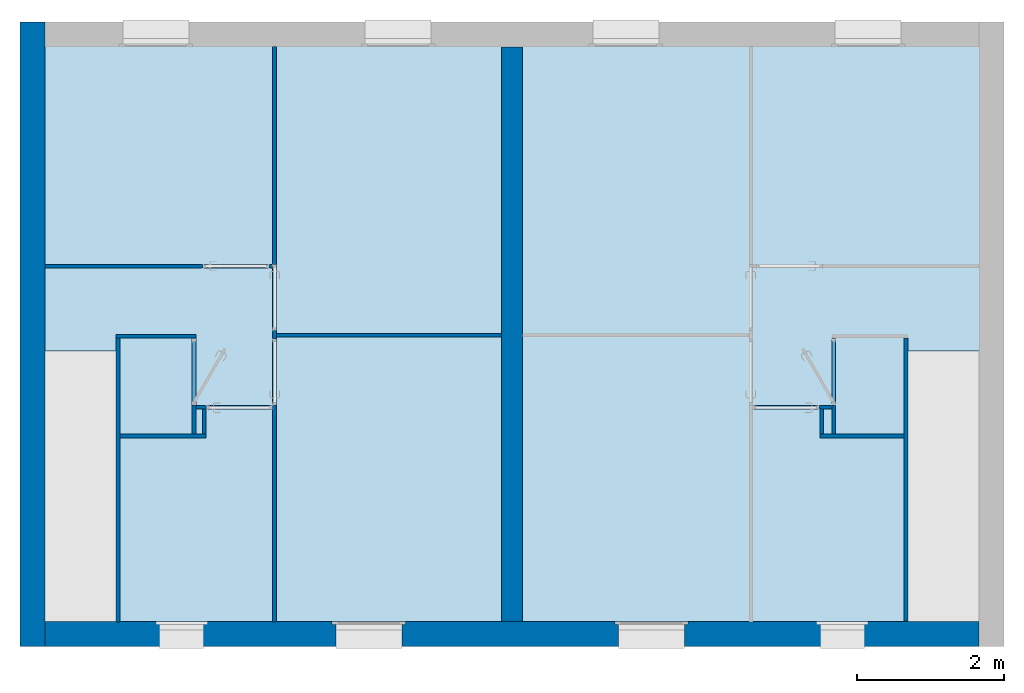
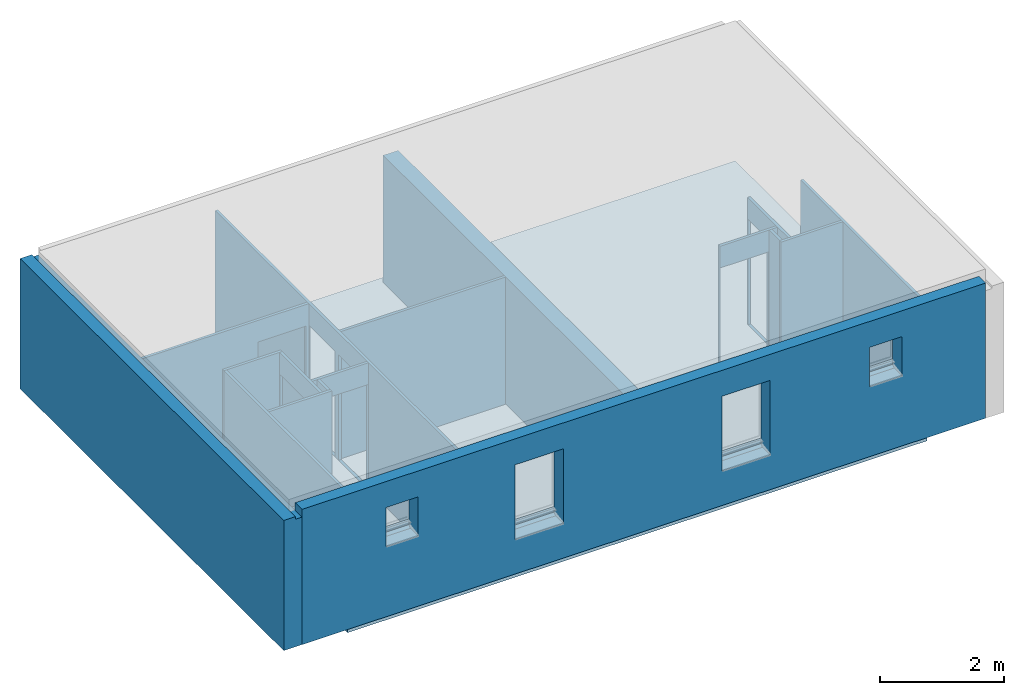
# One storey, part 1 of 14: 17 walls, 1 slab.
"""IFC2X3 building model written with IfcOpenShell, lengths in millimetres."""

import ifcopenshell
import ifcopenshell.guid

model = None  # the IFC model being written
_history = None  # IfcOwnerHistory: only IFC2X3 demands one
_inside = {}  # id of a spatial element -> (the spatial element, [elements in it])
_under = {}  # id of a project, library or spatial element -> (it, [spatial elements below it])
_declared = {}  # id of a project -> (the project, [libraries it declares])
_typed = {}  # id of a type object -> (the type object, [elements of that type])
_made_of = {}  # id of a material, layer set ... -> (it, [elements and type objects made of it])


def new_model(schema):
    """Start an empty IFC model of exactly this schema.

    Asked for "IFC4X3", IfcOpenShell would pick the latest addendum, in which some entities
    have other attributes; the version numbers below select the first issue.
    IFC2X3 requires an IfcOwnerHistory on every rooted entity: one is made here for all.
    """
    global model, _history
    if schema == "IFC4X3":
        model = ifcopenshell.file(schema_version=(4, 3, 0, 0))
    else:
        model = ifcopenshell.file(schema=schema)
    _inside.clear()
    _under.clear()
    _declared.clear()
    _typed.clear()
    _made_of.clear()
    _history = None
    if model.schema == "IFC2X3":
        org = make("IfcOrganization", Name="unknown")
        user = make(
            "IfcPersonAndOrganization",
            ThePerson=make("IfcPerson", FamilyName="unknown"),
            TheOrganization=org,
        )
        app = make(
            "IfcApplication",
            ApplicationDeveloper=org,
            Version="unknown",
            ApplicationFullName="unknown",
            ApplicationIdentifier="unknown",
        )
        _history = make(
            "IfcOwnerHistory",
            OwningUser=user,
            OwningApplication=app,
            ChangeAction="ADDED",
            CreationDate=0,
        )
    return model


def make(cls, **values):
    """One entity of the class cls with the attributes given. An attribute that is None is left unset."""
    return model.create_entity(
        cls, **{name: value for name, value in values.items() if value is not None}
    )


def entity(cls, *values):
    """Any entity or typed value of the class cls, its attributes in the order of the schema. None: left unset."""
    e = model.create_entity(cls)
    for i, value in enumerate(values):
        if value is not None:
            e[i] = value
    return e


def rooted(cls, **values):
    """An entity with a GlobalId (a new one), such as an element, a storey or a relation."""
    return make(cls, GlobalId=ifcopenshell.guid.new(), OwnerHistory=_history, **values)


def si_unit(unit_type, name, prefix=None):
    """IfcSIUnit, for example si_unit("LENGTHUNIT", "METRE", prefix="MILLI")."""
    return make("IfcSIUnit", UnitType=unit_type, Prefix=prefix, Name=name)


def converted_unit(unit_type, name, factor, base, dimensions=None, offset=None):
    """IfcConversionBasedUnit, such as the inch: factor (a typed value) times the base unit."""
    return make(
        "IfcConversionBasedUnit"
        if offset is None
        else "IfcConversionBasedUnitWithOffset",
        ConversionOffset=offset,
        Dimensions=None
        if dimensions is None
        else entity("IfcDimensionalExponents", *dimensions),
        UnitType=unit_type,
        Name=name,
        ConversionFactor=make(
            "IfcMeasureWithUnit", ValueComponent=factor, UnitComponent=base
        ),
    )


def assignment(units):
    """IfcUnitAssignment: the units of a project."""
    return None if units is None else make("IfcUnitAssignment", Units=units)


def point(xyz):
    """IfcCartesianPoint."""
    return None if xyz is None else make("IfcCartesianPoint", Coordinates=xyz)


def direction(xyz):
    """IfcDirection."""
    return None if xyz is None else make("IfcDirection", DirectionRatios=xyz)


def frame(location, z_axis=None, x_axis=None):
    """IfcAxis2Placement3D, a coordinate frame: its origin and axes. An axis left out is left unset."""
    return make(
        "IfcAxis2Placement3D",
        Location=point(location),
        Axis=direction(z_axis),
        RefDirection=direction(x_axis),
    )


def origin():
    """The frame at (0, 0, 0) with its axes left unset."""
    return frame((0.0, 0.0, 0.0))


def origin_with_axes():
    """The frame at (0, 0, 0) with the z axis (0, 0, 1) and the x axis (1, 0, 0) written out."""
    return frame((0.0, 0.0, 0.0), z_axis=(0.0, 0.0, 1.0), x_axis=(1.0, 0.0, 0.0))


def place(relative_to, where):
    """IfcLocalPlacement: puts the frame where relative to a parent placement (None: the world)."""
    return make(
        "IfcLocalPlacement", PlacementRelTo=relative_to, RelativePlacement=where
    )


def context(
    kind, dimensions, precision=None, world=None, true_north=None, identifier=None
):
    """IfcGeometricRepresentationContext, for example the 3D "Model" context."""
    return make(
        "IfcGeometricRepresentationContext",
        ContextIdentifier=identifier,
        ContextType=kind,
        CoordinateSpaceDimension=dimensions,
        Precision=precision,
        WorldCoordinateSystem=world,
        TrueNorth=true_north,
    )


def project(units=None, contexts=None):
    """IfcProject with its units and contexts."""
    return rooted(
        "IfcProject",
        Name="project",
        RepresentationContexts=contexts,
        UnitsInContext=assignment(units),
    )


def spatial(cls, under=None, at=None, **own):
    """A site, building, storey or space (cls), placed at a placement, below another one or the project."""
    s = rooted(cls, ObjectPlacement=at, **own)
    if under is not None:
        _under.setdefault(under.id(), (under, []))[1].append(s)
    return s


def faces_of(points, faces, orient=None, outer=None):
    """IfcFace entities. A face is a list of loops; a loop is a list of indices into points, from 0.

    orient and outer hold one flag for each loop. By default every Orientation is true, the
    first loop of a face is its IfcFaceOuterBound and the others are IfcFaceBound.
    """
    made = []
    for i, loops in enumerate(faces):
        bounds = []
        for j, loop in enumerate(loops):
            is_outer = j == 0 if outer is None else outer[i][j]
            bounds.append(
                make(
                    "IfcFaceOuterBound" if is_outer else "IfcFaceBound",
                    Bound=make("IfcPolyLoop", Polygon=[points[k] for k in loop]),
                    Orientation=True if orient is None else orient[i][j],
                )
            )
        made.append(make("IfcFace", Bounds=bounds))
    return made


def faceted_brep(points, faces, orient=None, outer=None, voids=None):
    """IfcFacetedBrep: a solid bounded by flat faces; with voids (closed shells), ...WithVoids."""
    shared = [point(p) for p in points]
    hull = make("IfcClosedShell", CfsFaces=faces_of(shared, faces, orient, outer))
    if voids is None:
        return make("IfcFacetedBrep", Outer=hull)
    return make(
        "IfcFacetedBrepWithVoids",
        Outer=hull,
        Voids=[
            make(cls, CfsFaces=faces_of(shared, fs, o, b)) for cls, fs, o, b in voids
        ],
    )


def shape(context_of_items, identifier, shape_type, items):
    """IfcShapeRepresentation: the items that make up one representation, for example the "Body"."""
    return make(
        "IfcShapeRepresentation",
        ContextOfItems=context_of_items,
        RepresentationIdentifier=identifier,
        RepresentationType=shape_type,
        Items=items,
    )


def made_of(thing, what):
    """Note that an element or type object is made of a material, layer set ...; save() writes the relation."""
    if what is not None:
        _made_of.setdefault(what.id(), (what, []))[1].append(thing)
    return thing


def element(
    cls,
    number,
    at=None,
    inside=None,
    cuts=None,
    type_object=None,
    material=None,
    context=None,
    identifier="Body",
    shape_type=None,
    held_by="IfcProductDefinitionShape",
    body=None,
    shapes=None,
    **own,
):
    """One element of the class cls, such as IfcWall. Its Tag is "e" and its number.

    at: its placement. inside: the storey or other place that contains it. cuts: it is an
    opening in that element (IfcRelVoidsElement). A single representation is given by context,
    identifier, shape_type and body (its items); several are given by shapes. held_by: the class
    of the entity that holds the representations. save() writes the other relations.
    """
    e = rooted(cls, Tag="e%d" % number, ObjectPlacement=at, **own)
    if body is not None:
        shapes = [shape(context, identifier, shape_type, body)]
    if shapes is not None:
        e.Representation = make(held_by, Representations=shapes)
    if inside is not None:
        _inside.setdefault(inside.id(), (inside, []))[1].append(e)
    if cuts is not None:
        rooted(
            "IfcRelVoidsElement", RelatingBuildingElement=cuts, RelatedOpeningElement=e
        )
    if type_object is not None:
        _typed.setdefault(type_object.id(), (type_object, []))[1].append(e)
    return made_of(e, material)


def aggregate(whole, parts):
    """IfcRelAggregates: a whole, such as a stair, and the parts it consists of."""
    return rooted("IfcRelAggregates", RelatingObject=whole, RelatedObjects=parts)


def save(model, path):
    """Write the relations noted so far, then the file.

    IfcRelAggregates (storeys below a building ...), IfcRelContainedInSpatialStructure (elements
    in a storey), IfcRelDefinesByType, IfcRelAssociatesMaterial and IfcRelDeclares: one each for
    every whole, place, type object, material and project.
    """
    for whole, parts in _under.values():
        aggregate(whole, parts)
    for where, things in _inside.values():
        rooted(
            "IfcRelContainedInSpatialStructure",
            RelatedElements=things,
            RelatingStructure=where,
        )
    for kind, things in _typed.values():
        rooted("IfcRelDefinesByType", RelatedObjects=things, RelatingType=kind)
    for what, things in _made_of.values():
        rooted("IfcRelAssociatesMaterial", RelatedObjects=things, RelatingMaterial=what)
    for by, libraries in _declared.values():
        rooted("IfcRelDeclares", RelatingContext=by, RelatedDefinitions=libraries)
    model.write(path)


model = new_model("IFC2X3")

# Units and contexts
model_context = context("Model", 3, precision=1e-05, world=origin(), true_north=direction((0.0, 1.0, 0.0)))
ifc_project = project(units=[si_unit("LENGTHUNIT", "METRE", prefix="MILLI"), si_unit("AREAUNIT", "SQUARE_METRE"), si_unit("VOLUMEUNIT", "CUBIC_METRE"), converted_unit("PLANEANGLEUNIT", "DEGREE", entity("IfcPlaneAngleMeasure", 0.01745), si_unit("PLANEANGLEUNIT", "RADIAN"), dimensions=[0, 0, 0, 0, 0, 0, 0]), si_unit("SOLIDANGLEUNIT", "STERADIAN"), si_unit("MASSUNIT", "GRAM"), si_unit("TIMEUNIT", "SECOND"), si_unit("THERMODYNAMICTEMPERATUREUNIT", "DEGREE_CELSIUS"), si_unit("LUMINOUSINTENSITYUNIT", "LUMEN")], contexts=[model_context])

# Site, building, storey
placement = place(None, origin_with_axes())
site_placement = place(placement, frame((11636.08881703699, 2815.7442167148, 4.768371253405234e-06), z_axis=(0.0, 0.0, 1.0), x_axis=(1.0, 0.0, 0.0)))
site = spatial("IfcSite", under=ifc_project, at=site_placement, Name="Surface", CompositionType="ELEMENT")
building_placement = place(placement, origin_with_axes())
building = spatial("IfcBuilding", under=site, at=building_placement, Name="Default Building", CompositionType="ELEMENT")
storey_placement = place(building_placement, origin_with_axes())
storey = spatial("IfcBuildingStorey", under=building, at=storey_placement, Name="Plan étage", CompositionType="ELEMENT", Elevation=0.0)

# Slab
slab_placement = place(storey_placement, frame((11636.08881703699, 2815.7442167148, 4.768371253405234e-06), z_axis=(0.0, 0.0, 1.0), x_axis=(1.0, 0.0, 0.0)))
element("IfcSlab", 1, at=slab_placement, inside=storey, Name="IfcSlab - Sol:Dalle Béton -160 + 60 mm", context=model_context, shape_type="Brep", body=[
    faceted_brep([(1543.911200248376, 5464.255993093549, 2500.000002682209), (-11416.0888378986, 1208.089549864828, 2500.000002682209), (-11416.0888378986, 5464.255993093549, 2500.000002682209), (-10326.08868531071, 1208.089549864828, 2500.000002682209), (453.9110476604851, 1206.755776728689, 2500.000002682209), (1543.911200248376, 1206.755776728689, 2500.000002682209), (453.9110476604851, -2595.74442652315, 2500.000002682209), (-10326.08868531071, -2595.74442652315, 2500.000002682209), (1543.911200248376, 1206.755776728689, 2739.999997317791), (-10326.08868531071, 1208.089549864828, 2739.999997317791), (453.9110476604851, 1206.755776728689, 2739.999997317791), (-11416.0888378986, 5464.255993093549, 2739.999997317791), (-11416.0888378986, 1208.089549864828, 2739.999997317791), (1543.911200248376, 5464.255993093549, 2739.999997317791), (-10326.08868531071, -2595.74442652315, 2739.999997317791), (453.9110476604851, -2595.74442652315, 2739.999997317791)], [[[0, 1, 2]], [[0, 3, 1]], [[0, 4, 3]], [[4, 0, 5]], [[6, 3, 4]], [[3, 6, 7]], [[8, 9, 10]], [[9, 11, 12]], [[8, 11, 9]], [[11, 8, 13]], [[10, 14, 15]], [[14, 10, 9]], [[2, 12, 11]], [[2, 1, 12]], [[0, 11, 13]], [[0, 2, 11]], [[5, 13, 8]], [[5, 0, 13]], [[4, 8, 10]], [[4, 5, 8]], [[6, 10, 15]], [[6, 4, 10]], [[7, 15, 14]], [[7, 6, 15]], [[3, 14, 9]], [[3, 7, 14]], [[1, 9, 12]], [[1, 3, 9]]]),
])

# Walls
wall_1_placement = place(storey_placement, frame((11636.08881703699, 2815.7442167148, 4.768371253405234e-06), z_axis=(0.0, 0.0, 1.0), x_axis=(1.0, 0.0, 0.0)))
element("IfcWallStandardCase", 2, at=wall_1_placement, inside=storey, Name="IfcWallStandardCase - Mur de base:Mur de base Ext. Parpaing 20 + Isolant 12", context=model_context, shape_type="Brep", body=[
    faceted_brep([(-136.0886280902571, -2565.744218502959, 4120.576362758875), (-736.0890095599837, -2515.744221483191, 4162.110745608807), (-736.0890095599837, -2565.744218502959, 4120.576362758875), (-136.0886280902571, -2515.744221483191, 4162.110745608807), (-2586.088914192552, -2565.744218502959, 3420.576341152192), (-3486.088771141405, -2515.744221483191, 3462.110764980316), (-3486.088771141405, -2565.744218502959, 3420.576341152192), (-2586.088914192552, -2515.744221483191, 3462.110764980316), (-6436.08881882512, -2565.744218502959, 3420.576341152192), (-7336.088914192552, -2515.744221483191, 3462.110764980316), (-7336.088914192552, -2565.744218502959, 3420.576341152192), (-6436.08881882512, -2515.744221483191, 3462.110764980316), (-9136.088628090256, -2565.744218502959, 4120.576362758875), (-9736.089009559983, -2515.744221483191, 4162.110745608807), (-9736.089009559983, -2565.744218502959, 4120.576362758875), (-9136.088628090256, -2515.744221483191, 4162.110745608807), (-736.0890095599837, -2515.744221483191, 4240.000001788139), (-136.0886280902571, -2515.744221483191, 4240.000001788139), (-786.0887234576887, -2515.744221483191, 4240.000001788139), (-736.0890095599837, -2515.744221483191, 4889.999992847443), (-786.0887234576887, -2515.744221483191, 4940.000004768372), (-136.0886280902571, -2515.744221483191, 4889.999992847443), (-86.08891419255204, -2515.744221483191, 4240.000001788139), (-86.08891419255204, -2515.744221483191, 4940.000004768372), (-3486.088771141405, -2515.744221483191, 3540.000028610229), (-2586.088914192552, -2515.744221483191, 3540.000028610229), (-3536.088842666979, -2515.744221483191, 3540.000028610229), (-3486.088771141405, -2515.744221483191, 4889.999992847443), (-3536.088842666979, -2515.744221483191, 4940.000004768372), (-2586.088914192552, -2515.744221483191, 4889.999992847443), (-2536.088723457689, -2515.744221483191, 3540.000028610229), (-2536.088723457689, -2515.744221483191, 4940.000004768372), (-7336.088914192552, -2515.744221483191, 3540.000028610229), (-6436.08881882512, -2515.744221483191, 3540.000028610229), (-7386.088866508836, -2515.744221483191, 3540.000028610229), (-7336.088914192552, -2515.744221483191, 4889.999992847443), (-7386.088866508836, -2515.744221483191, 4940.000004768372), (-6436.08881882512, -2515.744221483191, 4889.999992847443), (-6386.088866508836, -2515.744221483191, 3540.000028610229), (-6386.088866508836, -2515.744221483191, 4940.000004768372), (-9736.089009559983, -2515.744221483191, 4240.000001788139), (-9136.088628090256, -2515.744221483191, 4240.000001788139), (-9786.088723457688, -2515.744221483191, 4240.000001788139), (-9736.089009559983, -2515.744221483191, 4889.999992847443), (-9786.088723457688, -2515.744221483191, 4940.000004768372), (-9136.088628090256, -2515.744221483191, 4889.999992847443), (-9086.08891419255, -2515.744221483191, 4240.000001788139), (-9086.08891419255, -2515.744221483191, 4940.000004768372), (-736.0890095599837, -2815.744218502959, 4889.999992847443), (-736.0890095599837, -2815.744218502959, 4120.576362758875), (-136.0886280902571, -2815.744218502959, 4889.999992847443), (-136.0886280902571, -2815.744218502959, 4120.576362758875), (-2586.088914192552, -2815.744218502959, 3420.576341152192), (-2586.088914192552, -2815.744218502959, 4889.999992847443), (-3486.088771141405, -2815.744218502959, 3420.576341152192), (-3486.088771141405, -2815.744218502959, 4889.999992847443), (-6436.08881882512, -2815.744218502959, 4889.999992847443), (-7336.088914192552, -2815.744218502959, 4889.999992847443), (-6436.08881882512, -2815.744218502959, 3420.576341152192), (-7336.088914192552, -2815.744218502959, 3420.576341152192), (-9136.088628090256, -2815.744218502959, 4120.576362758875), (-9136.088628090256, -2815.744218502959, 4889.999992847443), (-9736.089009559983, -2815.744218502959, 4120.576362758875), (-9736.089009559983, -2815.744218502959, 4889.999992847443), (-786.0887234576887, -2475.74421492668, 4940.000004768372), (-86.08891419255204, -2475.74421492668, 4940.000004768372), (-786.0887234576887, -2475.74421492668, 4240.000001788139), (-736.0890095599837, -2475.74421492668, 4240.000001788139), (-136.0886280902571, -2475.74421492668, 4240.000001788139), (-86.08891419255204, -2475.74421492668, 4240.000001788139), (-3536.088842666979, -2475.74421492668, 3540.000028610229), (-3536.088842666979, -2475.74421492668, 4940.000004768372), (-3486.088771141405, -2475.74421492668, 3540.000028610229), (-2586.088914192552, -2475.74421492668, 3540.000028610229), (-2536.088723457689, -2475.74421492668, 3540.000028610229), (-2536.088723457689, -2475.74421492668, 4940.000004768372), (-7386.088866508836, -2475.74421492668, 4940.000004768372), (-6386.088866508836, -2475.74421492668, 4940.000004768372), (-7386.088866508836, -2475.74421492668, 3540.000028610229), (-6386.088866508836, -2475.74421492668, 3540.000028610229), (-7336.088914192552, -2475.74421492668, 3540.000028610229), (-6436.08881882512, -2475.74421492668, 3540.000028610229), (-9736.089009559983, -2475.74421492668, 4240.000001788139), (-9786.088723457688, -2475.74421492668, 4240.000001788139), (-9136.088628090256, -2475.74421492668, 4240.000001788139), (-9086.08891419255, -2475.74421492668, 4240.000001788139), (-9086.08891419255, -2475.74421492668, 4940.000004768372), (-9786.088723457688, -2475.74421492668, 4940.000004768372), (1423.911314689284, -2815.744218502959, 5400.000042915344), (1423.911314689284, -2595.744215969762, 5239.999957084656), (1423.911314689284, -2595.744215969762, 5400.000042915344), (1423.911314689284, -2815.744218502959, 2739.999957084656), (1423.911314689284, -2475.74421492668, 5239.999957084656), (1423.911314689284, -2475.74421492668, 2739.999957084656), (-11296.08895233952, -2815.744218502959, 2739.999957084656), (-11296.08895233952, -2815.744218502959, 5400.000042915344), (-11296.08895233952, -2595.744215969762, 5400.000042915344), (-11296.08895233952, -2595.744215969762, 5239.999957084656), (-5076.088819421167, -2475.74421492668, 5239.999957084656), (-11296.08895233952, -2475.74421492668, 5239.999957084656), (-4796.088818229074, -2475.74421492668, 5239.999957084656), (-11296.08895233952, -2475.74421492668, 2739.999957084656)], [[[0, 1, 2]], [[0, 3, 1]], [[4, 5, 6]], [[4, 7, 5]], [[8, 9, 10]], [[8, 11, 9]], [[12, 13, 14]], [[12, 15, 13]], [[3, 16, 1]], [[3, 17, 16]], [[18, 19, 16]], [[19, 20, 21]], [[20, 19, 18]], [[21, 22, 17]], [[21, 23, 22]], [[23, 21, 20]], [[7, 24, 5]], [[7, 25, 24]], [[26, 27, 24]], [[27, 28, 29]], [[28, 27, 26]], [[29, 30, 25]], [[29, 31, 30]], [[31, 29, 28]], [[11, 32, 9]], [[11, 33, 32]], [[34, 35, 32]], [[35, 36, 37]], [[36, 35, 34]], [[37, 38, 33]], [[37, 39, 38]], [[39, 37, 36]], [[15, 40, 13]], [[15, 41, 40]], [[42, 43, 40]], [[43, 44, 45]], [[44, 43, 42]], [[45, 46, 41]], [[45, 47, 46]], [[47, 45, 44]], [[16, 2, 1]], [[19, 2, 16]], [[48, 2, 19]], [[2, 48, 49]], [[50, 19, 21]], [[50, 48, 19]], [[51, 3, 0]], [[51, 17, 3]], [[50, 17, 51]], [[17, 50, 21]], [[51, 2, 49]], [[51, 0, 2]], [[52, 7, 4]], [[52, 25, 7]], [[53, 25, 52]], [[25, 53, 29]], [[52, 6, 54]], [[52, 4, 6]], [[53, 27, 29]], [[53, 55, 27]], [[24, 6, 5]], [[27, 6, 24]], [[55, 6, 27]], [[6, 55, 54]], [[56, 35, 37]], [[56, 57, 35]], [[58, 11, 8]], [[58, 33, 11]], [[56, 33, 58]], [[33, 56, 37]], [[32, 10, 9]], [[35, 10, 32]], [[57, 10, 35]], [[10, 57, 59]], [[58, 10, 59]], [[58, 8, 10]], [[60, 15, 12]], [[60, 41, 15]], [[61, 41, 60]], [[41, 61, 45]], [[60, 14, 62]], [[60, 12, 14]], [[61, 43, 45]], [[61, 63, 43]], [[40, 14, 13]], [[43, 14, 40]], [[63, 14, 43]], [[14, 63, 62]], [[64, 23, 20]], [[64, 65, 23]], [[66, 20, 18]], [[66, 64, 20]], [[16, 66, 18]], [[16, 67, 66]], [[16, 68, 67]], [[17, 68, 16]], [[17, 69, 68]], [[69, 17, 22]], [[69, 23, 65]], [[69, 22, 23]], [[70, 28, 26]], [[70, 71, 28]], [[24, 70, 26]], [[24, 72, 70]], [[25, 72, 24]], [[25, 73, 72]], [[30, 73, 25]], [[73, 30, 74]], [[71, 31, 28]], [[71, 75, 31]], [[74, 31, 75]], [[74, 30, 31]], [[76, 39, 36]], [[76, 77, 39]], [[78, 36, 34]], [[78, 76, 36]], [[79, 39, 77]], [[79, 38, 39]], [[32, 78, 34]], [[32, 80, 78]], [[33, 80, 32]], [[33, 81, 80]], [[38, 81, 33]], [[81, 38, 79]], [[42, 82, 83]], [[40, 82, 42]], [[40, 84, 82]], [[41, 84, 40]], [[41, 85, 84]], [[85, 41, 46]], [[85, 47, 86]], [[85, 46, 47]], [[83, 44, 42]], [[83, 87, 44]], [[87, 47, 44]], [[87, 86, 47]], [[88, 89, 90]], [[91, 89, 88]], [[91, 92, 89]], [[92, 91, 93]], [[94, 62, 95]], [[94, 60, 62]], [[94, 59, 60]], [[94, 58, 59]], [[94, 54, 58]], [[94, 52, 54]], [[52, 51, 49]], [[51, 91, 50]], [[52, 91, 51]], [[91, 52, 94]], [[63, 95, 62]], [[61, 95, 63]], [[59, 61, 60]], [[57, 61, 59]], [[57, 95, 61]], [[56, 95, 57]], [[54, 56, 58]], [[55, 56, 54]], [[55, 95, 56]], [[53, 95, 55]], [[49, 53, 52]], [[48, 53, 49]], [[48, 95, 53]], [[50, 95, 48]], [[50, 88, 95]], [[88, 50, 91]], [[95, 90, 96]], [[95, 88, 90]], [[97, 90, 89]], [[97, 96, 90]], [[97, 98, 99]], [[97, 100, 98]], [[89, 100, 97]], [[100, 89, 92]], [[92, 86, 87]], [[92, 76, 86]], [[92, 77, 76]], [[92, 71, 77]], [[92, 75, 71]], [[92, 64, 75]], [[92, 65, 64]], [[92, 69, 65]], [[74, 101, 73]], [[74, 93, 101]], [[69, 93, 74]], [[93, 69, 92]], [[87, 99, 92]], [[83, 99, 87]], [[78, 83, 85]], [[83, 101, 99]], [[78, 101, 83]], [[80, 101, 78]], [[81, 101, 80]], [[101, 81, 73]], [[76, 85, 86]], [[85, 76, 78]], [[71, 79, 77]], [[70, 79, 71]], [[66, 75, 64]], [[66, 74, 75]], [[67, 74, 66]], [[74, 67, 69]], [[101, 91, 94]], [[101, 93, 91]], [[99, 101, 97]], [[97, 95, 96]], [[101, 95, 97]], [[95, 101, 94]]]),
])
wall_2_placement = place(storey_placement, frame((11636.08881703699, 2815.7442167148, 4.768371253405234e-06), z_axis=(0.0, 0.0, 1.0), x_axis=(1.0, 0.0, 0.0)))
element("IfcWallStandardCase", 3, at=wall_2_placement, inside=storey, Name="IfcWallStandardCase - Mur de base:Int. plâtre 50 mm", context=model_context, shape_type="Brep", body=[
    faceted_brep([(-741.088819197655, 414.2557850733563, 5239.999995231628), (-691.0888184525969, 74.25578149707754, 5239.999995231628), (-691.0888184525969, 414.2557850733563, 5239.999995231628), (-741.088819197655, 74.25578149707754, 5239.999995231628), (-691.0888184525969, 414.2557850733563, 2730.000004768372), (-741.088819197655, 74.25578149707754, 2730.000004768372), (-741.088819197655, 414.2557850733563, 2730.000004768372), (-691.0888184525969, 74.25578149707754, 2730.000004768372)], [[[0, 1, 2]], [[0, 3, 1]], [[4, 5, 6]], [[4, 7, 5]], [[3, 6, 5]], [[3, 0, 6]], [[1, 5, 7]], [[1, 3, 5]], [[2, 7, 4]], [[2, 1, 7]], [[0, 4, 6]], [[0, 2, 4]]]),
])
wall_3_placement = place(storey_placement, frame((11636.08881703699, 2815.7442167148, 4.768371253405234e-06), z_axis=(0.0, 0.0, 1.0), x_axis=(1.0, 0.0, 0.0)))
element("IfcWallStandardCase", 4, at=wall_3_placement, inside=storey, Name="IfcWallStandardCase - Mur de base:Int. plâtre 50 mm", context=model_context, shape_type="Brep", body=[
    faceted_brep([(-753.5888092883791, 464.2557836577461, 2739.999995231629), (-1653.588845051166, 414.255782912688, 2739.999995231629), (-753.5888092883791, 414.255782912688, 2739.999995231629), (-1653.588845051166, 464.2557836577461, 2739.999995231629), (-753.5888092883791, 464.2557836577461, 4814.999983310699), (-753.5888092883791, 414.255782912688, 4814.999983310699), (-1653.588845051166, 464.2557836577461, 4814.999983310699), (-1653.588845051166, 414.255782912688, 4814.999983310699), (-1656.08884266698, 414.255782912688, 5239.999995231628), (-1656.08884266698, 464.2557836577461, 2730.000004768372), (-1656.08884266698, 414.255782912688, 2730.000004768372), (-1656.08884266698, 464.2557836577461, 5239.999995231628), (-581.0887949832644, 464.2557836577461, 5239.999995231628), (-581.0887949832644, 414.255782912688, 5239.999995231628), (-581.0887949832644, 414.255782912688, 2730.000004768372), (-581.0887949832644, 464.2557836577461, 2730.000004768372)], [[[0, 1, 2]], [[0, 3, 1]], [[4, 2, 5]], [[4, 0, 2]], [[6, 5, 7]], [[6, 4, 5]], [[3, 7, 1]], [[3, 6, 7]], [[8, 9, 10]], [[8, 11, 9]], [[12, 8, 13]], [[12, 11, 8]], [[14, 9, 15]], [[14, 10, 9]], [[10, 1, 8]], [[10, 2, 1]], [[2, 14, 5]], [[14, 2, 10]], [[7, 8, 1]], [[5, 8, 7]], [[5, 13, 8]], [[13, 5, 14]], [[15, 0, 12]], [[15, 3, 0]], [[3, 9, 6]], [[9, 3, 15]], [[4, 12, 0]], [[6, 12, 4]], [[6, 11, 12]], [[11, 6, 9]], [[12, 14, 15]], [[12, 13, 14]]]),
])
wall_4_placement = place(storey_placement, frame((11636.08881703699, 2815.7442167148, 4.768371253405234e-06), z_axis=(0.0, 0.0, 1.0), x_axis=(1.0, 0.0, 0.0)))
element("IfcWallStandardCase", 5, at=wall_4_placement, inside=storey, Name="IfcWallStandardCase - Mur de base:Int. plâtre 50 mm", context=model_context, shape_type="Brep", body=[
    faceted_brep([(-531.088818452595, 474.2557880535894, 2739.999995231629), (-581.088819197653, 1374.255764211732, 2739.999995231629), (-581.088819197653, 474.2557880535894, 2739.999995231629), (-531.088818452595, 1374.255764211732, 2739.999995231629), (-581.088819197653, 1374.255764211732, 4814.999983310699), (-531.088818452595, 1374.255764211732, 4814.999983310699), (-581.088819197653, 474.2557880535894, 4814.999983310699), (-531.088818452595, 474.2557880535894, 4814.999983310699), (-531.088818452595, 74.25581189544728, 5239.999995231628), (-581.088819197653, 74.25581189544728, 2730.000004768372), (-531.088818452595, 74.25581189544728, 2730.000004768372), (-581.088819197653, 74.25581189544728, 5239.999995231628), (-581.088819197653, 1384.255754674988, 5239.999995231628), (-531.088818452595, 1384.255754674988, 5239.999995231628), (-531.088818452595, 1384.255754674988, 2730.000004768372), (-581.088819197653, 1384.255754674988, 2730.000004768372)], [[[0, 1, 2]], [[0, 3, 1]], [[3, 4, 1]], [[3, 5, 4]], [[5, 6, 4]], [[5, 7, 6]], [[7, 2, 6]], [[7, 0, 2]], [[8, 9, 10]], [[8, 11, 9]], [[12, 8, 13]], [[12, 11, 8]], [[14, 9, 15]], [[14, 10, 9]], [[10, 0, 8]], [[10, 3, 0]], [[3, 14, 5]], [[14, 3, 10]], [[7, 8, 0]], [[5, 8, 7]], [[5, 13, 8]], [[13, 5, 14]], [[15, 1, 12]], [[15, 2, 1]], [[2, 9, 6]], [[9, 2, 15]], [[4, 12, 1]], [[6, 12, 4]], [[6, 11, 12]], [[11, 6, 9]], [[12, 14, 15]], [[12, 13, 14]]]),
])
wall_5_placement = place(storey_placement, frame((11636.08881703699, 2815.7442167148, 4.768371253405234e-06), z_axis=(0.0, 0.0, 1.0), x_axis=(1.0, 0.0, 0.0)))
element("IfcWallStandardCase", 6, at=wall_5_placement, inside=storey, Name="IfcWallStandardCase - Mur de base:Int. plâtre 50 mm", context=model_context, shape_type="Brep", body=[
    faceted_brep([(453.9111815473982, -2470.744226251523, 5239.999995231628), (403.9111808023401, 1384.255792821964, 5239.999995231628), (403.9111808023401, -2470.744226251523, 5239.999995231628), (453.9111815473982, 1384.255792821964, 5239.999995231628), (403.9111808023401, -2470.744226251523, 2730.000004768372), (453.9111815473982, 1384.255792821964, 2730.000004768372), (453.9111815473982, -2470.744226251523, 2730.000004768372), (403.9111808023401, 1384.255792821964, 2730.000004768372)], [[[0, 1, 2]], [[0, 3, 1]], [[4, 5, 6]], [[4, 7, 5]], [[3, 6, 5]], [[3, 0, 6]], [[1, 5, 7]], [[1, 3, 5]], [[2, 7, 4]], [[2, 1, 7]], [[0, 4, 6]], [[0, 2, 4]]]),
])
wall_6_placement = place(storey_placement, frame((11636.08881703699, 2815.7442167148, 4.768371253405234e-06), z_axis=(0.0, 0.0, 1.0), x_axis=(1.0, 0.0, 0.0)))
element("IfcWallStandardCase", 7, at=wall_6_placement, inside=storey, Name="IfcWallStandardCase - Mur de base:Int. plâtre 50 mm", context=model_context, shape_type="Brep", body=[
    faceted_brep([(-741.0888092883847, 24.25578291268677, 5239.999995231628), (403.9111716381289, 74.25578365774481, 5239.999995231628), (-741.0888092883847, 74.25578365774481, 5239.999995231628), (403.9111716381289, 24.25578291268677, 5239.999995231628), (-741.0888092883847, 74.25578365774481, 2730.000004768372), (403.9111716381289, 24.25578291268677, 2730.000004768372), (-741.0888092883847, 24.25578291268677, 2730.000004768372), (403.9111716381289, 74.25578365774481, 2730.000004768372)], [[[0, 1, 2]], [[0, 3, 1]], [[4, 5, 6]], [[4, 7, 5]], [[3, 6, 5]], [[3, 0, 6]], [[1, 5, 7]], [[1, 3, 5]], [[2, 7, 4]], [[2, 1, 7]], [[0, 4, 6]], [[0, 2, 4]]]),
])
wall_7_placement = place(storey_placement, frame((11636.08881703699, 2815.7442167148, 4.768371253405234e-06), z_axis=(0.0, 0.0, 1.0), x_axis=(1.0, 0.0, 0.0)))
element("IfcWallStandardCase", 8, at=wall_7_placement, inside=storey, Name="IfcWallStandardCase - Mur de base:Int. plâtre 50 mm", context=model_context, shape_type="Brep", body=[
    faceted_brep([(-9101.088818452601, 74.25578149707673, 5239.999995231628), (-9151.088819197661, 414.2557850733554, 5239.999995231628), (-9151.088819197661, 74.25578149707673, 5239.999995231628), (-9101.088818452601, 414.2557850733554, 5239.999995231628), (-9151.088819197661, 74.25578149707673, 2730.000004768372), (-9101.088818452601, 414.2557850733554, 2730.000004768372), (-9101.088818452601, 74.25578149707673, 2730.000004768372), (-9151.088819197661, 414.2557850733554, 2730.000004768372)], [[[0, 1, 2]], [[0, 3, 1]], [[4, 5, 6]], [[4, 7, 5]], [[3, 6, 5]], [[3, 0, 6]], [[1, 5, 7]], [[1, 3, 5]], [[2, 7, 4]], [[2, 1, 7]], [[0, 4, 6]], [[0, 2, 4]]]),
])
wall_8_placement = place(storey_placement, frame((11636.08881703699, 2815.7442167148, 4.768371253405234e-06), z_axis=(0.0, 0.0, 1.0), x_axis=(1.0, 0.0, 0.0)))
element("IfcWallStandardCase", 9, at=wall_8_placement, inside=storey, Name="IfcWallStandardCase - Mur de base:Int. plâtre 50 mm", context=model_context, shape_type="Brep", body=[
    faceted_brep([(-8198.58883789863, 464.2557836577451, 2739.999995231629), (-9098.588814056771, 414.255782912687, 2739.999995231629), (-8198.58883789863, 414.255782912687, 2739.999995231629), (-9098.588814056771, 464.2557836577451, 2739.999995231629), (-8198.58883789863, 464.2557836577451, 4814.999983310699), (-8198.58883789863, 414.255782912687, 4814.999983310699), (-9098.588814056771, 464.2557836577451, 4814.999983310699), (-9098.588814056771, 414.255782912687, 4814.999983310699), (-9241.08879736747, 414.255782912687, 5239.999995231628), (-9241.08879736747, 464.2557836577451, 2730.000004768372), (-9241.08879736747, 414.255782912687, 2730.000004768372), (-9241.08879736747, 464.2557836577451, 5239.999995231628), (-8196.088840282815, 464.2557836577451, 5239.999995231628), (-8196.088840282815, 414.255782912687, 5239.999995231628), (-8196.088840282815, 414.255782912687, 2730.000004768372), (-8196.088840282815, 464.2557836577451, 2730.000004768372)], [[[0, 1, 2]], [[0, 3, 1]], [[4, 2, 5]], [[4, 0, 2]], [[6, 5, 7]], [[6, 4, 5]], [[3, 7, 1]], [[3, 6, 7]], [[8, 9, 10]], [[8, 11, 9]], [[12, 8, 13]], [[12, 11, 8]], [[14, 9, 15]], [[14, 10, 9]], [[10, 1, 8]], [[10, 2, 1]], [[2, 14, 5]], [[14, 2, 10]], [[7, 8, 1]], [[5, 8, 7]], [[5, 13, 8]], [[13, 5, 14]], [[15, 0, 12]], [[15, 3, 0]], [[3, 9, 6]], [[9, 3, 15]], [[4, 12, 0]], [[6, 12, 4]], [[6, 11, 12]], [[11, 6, 9]], [[12, 14, 15]], [[12, 13, 14]]]),
])
wall_9_placement = place(storey_placement, frame((11636.08881703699, 2815.7442167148, 4.768371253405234e-06), z_axis=(0.0, 0.0, 1.0), x_axis=(1.0, 0.0, 0.0)))
element("IfcWallStandardCase", 10, at=wall_9_placement, inside=storey, Name="IfcWallStandardCase - Mur de base:Int. plâtre 50 mm", context=model_context, shape_type="Brep", body=[
    faceted_brep([(-5076.088852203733, 1444.255783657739, 5239.999995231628), (-8146.088785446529, 1394.255782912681, 5239.999995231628), (-5076.088852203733, 1394.255782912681, 5239.999995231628), (-8146.088785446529, 1444.255783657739, 5239.999995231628), (-5076.088852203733, 1394.255782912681, 2730.000004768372), (-8146.088785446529, 1444.255783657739, 2730.000004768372), (-5076.088852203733, 1444.255783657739, 2730.000004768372), (-8146.088785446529, 1394.255782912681, 2730.000004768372)], [[[0, 1, 2]], [[0, 3, 1]], [[4, 5, 6]], [[4, 7, 5]], [[3, 6, 5]], [[3, 0, 6]], [[1, 5, 7]], [[1, 3, 5]], [[2, 7, 4]], [[2, 1, 7]], [[0, 4, 6]], [[0, 2, 4]]]),
])
wall_10_placement = place(storey_placement, frame((11636.08881703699, 2815.7442167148, 4.768371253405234e-06), z_axis=(0.0, 0.0, 1.0), x_axis=(1.0, 0.0, 0.0)))
element("IfcWallStandardCase", 11, at=wall_10_placement, inside=storey, Name="IfcWallStandardCase - Mur de base:Int. plâtre 50 mm", context=model_context, shape_type="Brep", body=[
    faceted_brep([(-10326.08881919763, 1384.255726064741, 5239.999995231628), (-10276.08881845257, -2485.744159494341, 5239.999995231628), (-10276.08881845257, 1384.255726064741, 5239.999995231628), (-10326.08881919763, -2485.744159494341, 5239.999995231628), (-10276.08881845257, 1384.255726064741, 2730.000004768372), (-10326.08881919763, -2485.744159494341, 2730.000004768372), (-10326.08881919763, 1384.255726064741, 2730.000004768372), (-10276.08881845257, -2485.744159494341, 2730.000004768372)], [[[0, 1, 2]], [[0, 3, 1]], [[4, 5, 6]], [[4, 7, 5]], [[3, 6, 5]], [[3, 0, 6]], [[1, 5, 7]], [[1, 3, 5]], [[2, 7, 4]], [[2, 1, 7]], [[0, 4, 6]], [[0, 2, 4]]]),
])
wall_11_placement = place(storey_placement, frame((11636.08881703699, 2815.7442167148, 4.768371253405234e-06), z_axis=(0.0, 0.0, 1.0), x_axis=(1.0, 0.0, 0.0)))
element("IfcWallStandardCase", 12, at=wall_11_placement, inside=storey, Name="IfcWallStandardCase - Mur de base:Int. plâtre 50 mm", context=model_context, shape_type="Brep", body=[
    faceted_brep([(-10276.08879498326, 24.25578291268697, 5239.999995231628), (-9101.088842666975, 74.25578365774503, 5239.999995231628), (-10276.08879498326, 74.25578365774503, 5239.999995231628), (-9101.088842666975, 24.25578291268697, 5239.999995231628), (-10276.08879498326, 74.25578365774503, 2730.000004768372), (-9101.088842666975, 24.25578291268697, 2730.000004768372), (-10276.08879498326, 24.25578291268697, 2730.000004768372), (-9101.088842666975, 74.25578365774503, 2730.000004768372)], [[[0, 1, 2]], [[0, 3, 1]], [[4, 5, 6]], [[4, 7, 5]], [[3, 6, 5]], [[3, 0, 6]], [[1, 5, 7]], [[1, 3, 5]], [[2, 7, 4]], [[2, 1, 7]], [[0, 4, 6]], [[0, 2, 4]]]),
])
wall_12_placement = place(storey_placement, frame((11636.08881703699, 2815.7442167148, 4.768371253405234e-06), z_axis=(0.0, 0.0, 1.0), x_axis=(1.0, 0.0, 0.0)))
element("IfcWallStandardCase", 13, at=wall_12_placement, inside=storey, Name="IfcWallStandardCase - Mur de base:Int. plâtre 50 mm", context=model_context, shape_type="Brep", body=[
    faceted_brep([(-9291.088819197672, 474.2557880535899, 2739.999995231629), (-9241.088818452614, 474.2557880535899, 4814.999983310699), (-9241.088818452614, 474.2557880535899, 2739.999995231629), (-9291.088819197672, 474.2557880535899, 4814.999983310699), (-9241.088818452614, 1374.255764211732, 4814.999983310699), (-9291.088819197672, 1374.255764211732, 4814.999983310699), (-9241.088818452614, 1374.255764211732, 2739.999995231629), (-9291.088819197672, 1374.255764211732, 2739.999995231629), (-9291.088819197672, 1384.255754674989, 5239.999995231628), (-9241.088818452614, 1384.255754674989, 2730.000004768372), (-9291.088819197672, 1384.255754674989, 2730.000004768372), (-9241.088818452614, 1384.255754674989, 5239.999995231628), (-9241.088818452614, 74.25581189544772, 5239.999995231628), (-9291.088819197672, 74.25581189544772, 5239.999995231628), (-9291.088819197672, 74.25581189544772, 2730.000004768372), (-9241.088818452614, 74.25581189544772, 2730.000004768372)], [[[0, 1, 2]], [[0, 3, 1]], [[3, 4, 1]], [[3, 5, 4]], [[5, 6, 4]], [[5, 7, 6]], [[7, 2, 6]], [[7, 0, 2]], [[8, 9, 10]], [[8, 11, 9]], [[12, 8, 13]], [[12, 11, 8]], [[14, 9, 15]], [[14, 10, 9]], [[10, 7, 8]], [[10, 0, 7]], [[0, 14, 3]], [[14, 0, 10]], [[5, 8, 7]], [[3, 8, 5]], [[3, 13, 8]], [[13, 3, 14]], [[15, 2, 12]], [[15, 6, 2]], [[6, 9, 4]], [[9, 6, 15]], [[1, 12, 2]], [[4, 12, 1]], [[4, 11, 12]], [[11, 4, 9]], [[12, 14, 15]], [[12, 13, 14]]]),
])
wall_13_placement = place(storey_placement, frame((11636.08881703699, 2815.7442167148, 4.768371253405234e-06), z_axis=(0.0, 0.0, 1.0), x_axis=(1.0, 0.0, 0.0)))
element("IfcWallStandardCase", 14, at=wall_13_placement, inside=storey, Name="IfcWallStandardCase - Mur de base:Int. plâtre 50 mm", context=model_context, shape_type="Brep", body=[
    faceted_brep([(-9241.088799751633, 1434.255783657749, 5239.999995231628), (-10326.08883789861, 1384.255782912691, 5239.999995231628), (-9241.088799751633, 1384.255782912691, 5239.999995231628), (-10326.08883789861, 1434.255783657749, 5239.999995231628), (-9241.088799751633, 1384.255782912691, 2730.000004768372), (-10326.08883789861, 1434.255783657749, 2730.000004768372), (-9241.088799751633, 1434.255783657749, 2730.000004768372), (-10326.08883789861, 1384.255782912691, 2730.000004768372)], [[[0, 1, 2]], [[0, 3, 1]], [[4, 5, 6]], [[4, 7, 5]], [[3, 6, 5]], [[3, 0, 6]], [[1, 5, 7]], [[1, 3, 5]], [[2, 7, 4]], [[2, 1, 7]], [[0, 4, 6]], [[0, 2, 4]]]),
])
wall_14_placement = place(storey_placement, frame((11636.08881703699, 2815.7442167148, 4.768371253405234e-06), z_axis=(0.0, 0.0, 1.0), x_axis=(1.0, 0.0, 0.0)))
element("IfcWallStandardCase", 15, at=wall_14_placement, inside=storey, Name="IfcWallStandardCase - Mur de base:Int. plâtre 50 mm", context=model_context, shape_type="Brep", body=[
    faceted_brep([(-8246.088818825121, 2334.25578291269, 2739.999995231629), (-8246.088818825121, 2384.255783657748, 4814.999983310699), (-8246.088818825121, 2384.255783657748, 2739.999995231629), (-8246.088818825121, 2334.25578291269, 4814.999983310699), (-9146.088794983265, 2384.255783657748, 4814.999983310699), (-9146.088794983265, 2334.25578291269, 4814.999983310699), (-9146.088794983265, 2384.255783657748, 2739.999995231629), (-9146.088794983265, 2334.25578291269, 2739.999995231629), (-11296.08877114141, 2334.25578291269, 5239.999995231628), (-11296.08877114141, 2384.255783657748, 2730.000004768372), (-11296.08877114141, 2334.25578291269, 2730.000004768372), (-11296.08877114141, 2384.255783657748, 5239.999995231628), (-8196.088866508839, 2384.255783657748, 5239.999995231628), (-8196.088866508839, 2334.25578291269, 5239.999995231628), (-8196.088866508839, 2334.25578291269, 2730.000004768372), (-8196.088866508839, 2384.255783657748, 2730.000004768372)], [[[0, 1, 2]], [[0, 3, 1]], [[3, 4, 1]], [[3, 5, 4]], [[5, 6, 4]], [[5, 7, 6]], [[7, 2, 6]], [[7, 0, 2]], [[8, 9, 10]], [[8, 11, 9]], [[12, 8, 13]], [[12, 11, 8]], [[14, 9, 15]], [[14, 10, 9]], [[10, 7, 8]], [[10, 0, 7]], [[0, 14, 3]], [[14, 0, 10]], [[5, 8, 7]], [[3, 8, 5]], [[3, 13, 8]], [[13, 3, 14]], [[15, 2, 12]], [[15, 6, 2]], [[6, 9, 4]], [[9, 6, 15]], [[1, 12, 2]], [[4, 12, 1]], [[4, 11, 12]], [[11, 4, 9]], [[12, 14, 15]], [[12, 13, 14]]]),
])
wall_15_placement = place(storey_placement, frame((11636.08881703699, 2815.7442167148, 4.768371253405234e-06), z_axis=(0.0, 0.0, 1.0), x_axis=(1.0, 0.0, 0.0)))
element("IfcWallStandardCase", 16, at=wall_15_placement, inside=storey, Name="IfcWallStandardCase - Mur de base:Int. plâtre 50 mm", context=model_context, shape_type="Brep", body=[
    faceted_brep([(-8196.088819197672, 2384.255771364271, 4814.999983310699), (-8146.088818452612, 2384.255771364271, 2739.999995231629), (-8146.088818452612, 2384.255771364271, 4814.999983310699), (-8196.088819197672, 2384.255771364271, 2739.999995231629), (-8196.088819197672, 1484.255784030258, 4814.999983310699), (-8146.088818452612, 1484.255784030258, 4814.999983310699), (-8146.088818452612, 1484.255784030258, 2739.999995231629), (-8196.088819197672, 1484.255784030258, 2739.999995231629), (-8196.088819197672, 471.755807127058, 4814.999983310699), (-8146.088818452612, 1371.7557832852, 4814.999983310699), (-8146.088818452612, 471.755807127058, 4814.999983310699), (-8196.088819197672, 1371.7557832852, 4814.999983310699), (-8196.088819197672, 471.755807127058, 2739.999995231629), (-8146.088818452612, 471.755807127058, 2739.999995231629), (-8196.088819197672, 1371.7557832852, 2739.999995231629), (-8146.088818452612, 1371.7557832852, 2739.999995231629), (-8146.088818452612, -2485.744293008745, 5239.999995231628), (-8196.088819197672, -2485.744293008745, 2730.000004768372), (-8146.088818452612, -2485.744293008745, 2730.000004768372), (-8196.088819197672, -2485.744293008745, 5239.999995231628), (-8196.088819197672, 5354.255859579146, 5239.999995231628), (-8146.088818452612, 5354.255859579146, 5239.999995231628), (-8146.088818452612, 5354.255859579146, 2730.000004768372), (-8196.088819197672, 5354.255859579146, 2730.000004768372)], [[[0, 1, 2]], [[0, 3, 1]], [[4, 2, 5]], [[4, 0, 2]], [[3, 6, 1]], [[3, 7, 6]], [[7, 5, 6]], [[7, 4, 5]], [[8, 9, 10]], [[8, 11, 9]], [[12, 10, 13]], [[12, 8, 10]], [[14, 13, 15]], [[14, 12, 13]], [[11, 15, 9]], [[11, 14, 15]], [[16, 17, 18]], [[16, 19, 17]], [[20, 16, 21]], [[20, 19, 16]], [[22, 17, 23]], [[22, 18, 17]], [[18, 13, 16]], [[18, 15, 13]], [[15, 6, 9]], [[18, 6, 15]], [[18, 1, 6]], [[1, 22, 2]], [[22, 1, 18]], [[10, 16, 13]], [[9, 16, 10]], [[5, 9, 6]], [[5, 16, 9]], [[2, 16, 5]], [[2, 21, 16]], [[21, 2, 22]], [[23, 3, 20]], [[23, 7, 3]], [[7, 14, 4]], [[23, 14, 7]], [[23, 12, 14]], [[12, 17, 8]], [[17, 12, 23]], [[0, 20, 3]], [[4, 20, 0]], [[11, 4, 14]], [[11, 20, 4]], [[8, 20, 11]], [[8, 19, 20]], [[19, 8, 17]], [[20, 22, 23]], [[20, 21, 22]]]),
])
wall_16_placement = place(storey_placement, frame((11636.08881703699, 2815.7442167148, 4.768371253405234e-06), z_axis=(0.0, 0.0, 1.0), x_axis=(1.0, 0.0, 0.0)))
element("IfcWallStandardCase", 17, at=wall_16_placement, inside=storey, Name="IfcWallStandardCase - Mur de base:Mur de base Refend Ext. Parpaing 20 + Isolant 7", context=model_context, shape_type="Brep", body=[
    faceted_brep([(-4796.088818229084, -2475.744302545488, 5240.0), (-5076.088819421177, 5344.255869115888, 5240.0), (-5076.088819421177, -2475.744302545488, 5240.0), (-4796.088818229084, 5344.255869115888, 5240.0), (-5076.088819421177, -2475.744302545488, 2740.0), (-4796.088818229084, 5344.255869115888, 2740.0), (-4796.088818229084, -2475.744302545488, 2740.0), (-5076.088819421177, 5344.255869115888, 2740.0)], [[[0, 1, 2]], [[0, 3, 1]], [[4, 5, 6]], [[4, 7, 5]], [[3, 6, 5]], [[3, 0, 6]], [[1, 5, 7]], [[1, 3, 5]], [[2, 7, 4]], [[2, 1, 7]], [[0, 4, 6]], [[0, 2, 4]]]),
])
wall_17_placement = place(storey_placement, frame((11636.08881703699, 2815.7442167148, 4.768371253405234e-06), z_axis=(0.0, 0.0, 1.0), x_axis=(1.0, 0.0, 0.0)))
element("IfcWallStandardCase", 18, at=wall_17_placement, inside=storey, Name="IfcWallStandardCase - Mur de base:Mur de base Ext. Parpaing 20 + Isolant 12", context=model_context, shape_type="Brep", body=[
    faceted_brep([(-11636.08882061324, -2815.744216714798, 5299.999971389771), (-11416.08881808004, -2815.744216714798, 5250.000019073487), (-11416.08881808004, -2815.744216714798, 5299.999971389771), (-11636.08882061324, -2815.744216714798, 2740.000028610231), (-11296.08881703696, -2815.744216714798, 5250.000019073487), (-11296.08881703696, -2815.744216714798, 2740.000028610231), (-11636.08882061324, 5684.255783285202, 2740.000028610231), (-11636.08882061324, 5684.255783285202, 5299.999971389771), (-11416.08881808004, 5684.255783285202, 5299.999971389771), (-11416.08881808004, 5684.255783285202, 5250.000019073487), (-11296.08881703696, 5684.255783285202, 5250.000019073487), (-11296.08881703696, 5684.255783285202, 2740.000028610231)], [[[0, 1, 2]], [[3, 1, 0]], [[3, 4, 1]], [[4, 3, 5]], [[0, 6, 3]], [[0, 7, 6]], [[7, 2, 8]], [[7, 0, 2]], [[9, 2, 1]], [[9, 8, 2]], [[4, 9, 1]], [[4, 10, 9]], [[11, 4, 5]], [[11, 10, 4]], [[11, 3, 6]], [[11, 5, 3]], [[10, 11, 9]], [[9, 7, 8]], [[11, 7, 9]], [[7, 11, 6]]]),
])

save(model, "model.ifc")
